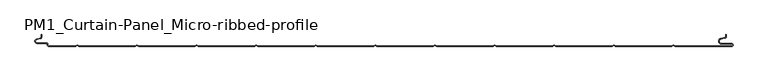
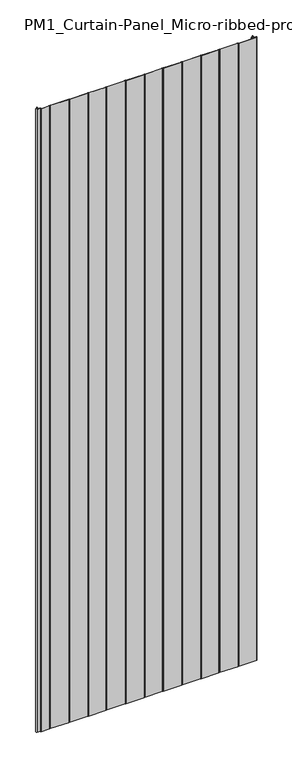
"""IFC4 building model written with IfcOpenShell, lengths in millimetres: plate geometry, PM1_Curtain-Panel_Micro-ribbed-profile : ACH_PM1_Acoustic-Sectioning-Panel_200M."""

from ifc_helpers import new_model, si_unit, frame, origin, place, context, project, spatial, polyline, circle_curve, source, transform, mapped, element, save
from ifc_brep_helpers import plane_surface, cylinder_surface, revolved_surface, advanced_brep


def pm1_curtain_panel_micro_ribbed_profile_6def71c2(model_context):
    return source(origin(), model_context, "Body", "AdvancedBrep", [
        advanced_brep(
        [(-575.0, -184.121443, 3500.0), (-576.5500978, -186.0701831, 3500.0), (-582.7098239, -187.492268, 3500.0), (-581.9, -194.6, 3500.0), (-566.4, -194.6, 3500.0), (-564.4, -196.6, 3500.0), (-564.4, -198.0, 3500.0), (-562.4, -200.0, 3500.0), (-517.0999995, -200.0, 3500.0), (-514.4, -198.4411545, 3500.0), (-511.7000005, -200.0, 3500.0), (-417.0999995, -200.0, 3500.0), (-414.4, -198.4411545, 3500.0), (-411.7000005, -200.0, 3500.0), (-317.0999995, -200.0, 3500.0), (-314.4, -198.4411545, 3500.0), (-311.7000005, -200.0, 3500.0), (-217.0999995, -200.0, 3500.0), (-214.4, -198.4411545, 3500.0), (-211.7000005, -200.0, 3500.0), (-117.0999995, -200.0, 3500.0), (-114.4, -198.4411545, 3500.0), (-111.7000005, -200.0, 3500.0), (-17.0999995, -200.0, 3500.0), (-14.4, -198.4411545, 3500.0), (-11.7000005, -200.0, 3500.0), (82.9000005, -200.0, 3500.0), (85.6, -198.4411545, 3500.0), (88.2999995, -200.0, 3500.0), (182.9000005, -200.0, 3500.0), (185.6, -198.4411545, 3500.0), (188.2999995, -200.0, 3500.0), (282.9000005, -200.0, 3500.0), (285.6, -198.4411545, 3500.0), (288.2999995, -200.0, 3500.0), (382.9000005, -200.0, 3500.0), (385.6, -198.4411545, 3500.0), (388.2999995, -200.0, 3500.0), (482.9000005, -200.0, 3500.0), (485.6, -198.4411545, 3500.0), (488.2999995, -200.0, 3500.0), (583.1, -200.0, 3500.0), (585.6, -197.5, 3500.0), (583.1, -195.0, 3500.0), (566.1, -195.0, 3500.0), (565.405407, -187.060769, 3500.0), (571.8514855, -185.9241509, 3500.0), (574.0, -183.3636508, 3500.0), (574.0, -180.0, 3500.0), (573.2, -180.0, 3500.0), (573.2, -183.3636508, 3500.0), (571.7125669, -185.1363047, 3500.0), (565.2664884, -186.2729228, 3500.0), (566.1, -195.8, 3500.0), (583.1, -195.8, 3500.0), (583.1, -199.2, 3500.0), (488.5143588, -199.2, 3500.0), (485.6, -197.517394, 3500.0), (482.6856412, -199.2, 3500.0), (388.5143588, -199.2, 3500.0), (385.6, -197.517394, 3500.0), (382.6856412, -199.2, 3500.0), (288.5143588, -199.2, 3500.0), (285.6, -197.517394, 3500.0), (282.6856412, -199.2, 3500.0), (188.5143588, -199.2, 3500.0), (185.6, -197.517394, 3500.0), (182.6856412, -199.2, 3500.0), (88.5143588, -199.2, 3500.0), (85.6, -197.517394, 3500.0), (82.6856412, -199.2, 3500.0), (-11.4856412, -199.2, 3500.0), (-14.4, -197.517394, 3500.0), (-17.3143588, -199.2, 3500.0), (-111.4856412, -199.2, 3500.0), (-114.4, -197.517394, 3500.0), (-117.3143588, -199.2, 3500.0), (-211.4856412, -199.2, 3500.0), (-214.4, -197.517394, 3500.0), (-217.3143588, -199.2, 3500.0), (-311.4856412, -199.2, 3500.0), (-314.4, -197.517394, 3500.0), (-317.3143588, -199.2, 3500.0), (-411.4856412, -199.2, 3500.0), (-414.4, -197.517394, 3500.0), (-417.3143588, -199.2, 3500.0), (-511.4856412, -199.2, 3500.0), (-514.4, -197.517394, 3500.0), (-517.3143588, -199.2, 3500.0), (-562.4, -199.2, 3500.0), (-563.6, -198.0, 3500.0), (-563.6, -196.6, 3500.0), (-566.4, -193.8, 3500.0), (-581.9, -193.8, 3500.0), (-582.529863, -188.2717638, 3500.0), (-576.370137, -186.849679, 3500.0), (-574.2, -184.121443, 3500.0), (-574.2, -180.0, 3500.0), (-575.0, -180.0, 3500.0), (-575.0, -184.121443, 0.0), (-575.0, -180.0, 0.0), (-574.2, -180.0, 0.0), (-574.2, -184.121443, 0.0), (-576.370137, -186.8496792, 0.0), (-582.529863, -188.271764, 0.0), (-581.9, -193.8, 0.0), (-566.4, -193.8, 0.0), (-563.6, -196.6, 0.0), (-563.6, -198.0, 0.0), (-562.4, -199.2, 0.0), (-517.3143588, -199.2, 0.0), (-514.4, -197.517394, 0.0), (-511.4856412, -199.2, 0.0), (-417.3143588, -199.2, 0.0), (-414.4, -197.517394, 0.0), (-411.4856412, -199.2, 0.0), (-317.3143588, -199.2, 0.0), (-314.4, -197.517394, 0.0), (-311.4856412, -199.2, 0.0), (-217.3143588, -199.2, 0.0), (-214.4, -197.517394, 0.0), (-211.4856412, -199.2, 0.0), (-117.3143588, -199.2, 0.0), (-114.4, -197.517394, 0.0), (-111.4856412, -199.2, 0.0), (-17.3143588, -199.2, 0.0), (-14.4, -197.517394, 0.0), (-11.4856412, -199.2, 0.0), (82.6856412, -199.2, 0.0), (85.6, -197.517394, 0.0), (88.5143588, -199.2, 0.0), (182.6856412, -199.2, 0.0), (185.6, -197.517394, 0.0), (188.5143588, -199.2, 0.0), (282.6856412, -199.2, 0.0), (285.6, -197.517394, 0.0), (288.5143588, -199.2, 0.0), (382.6856412, -199.2, 0.0), (385.6, -197.517394, 0.0), (388.5143588, -199.2, 0.0), (482.6856412, -199.2, 0.0), (485.6, -197.517394, 0.0), (488.5143588, -199.2, 0.0), (583.1, -199.2, 0.0), (583.1, -195.8, 0.0), (566.1, -195.8, 0.0), (565.2664884, -186.2729229, 0.0), (571.7125669, -185.1363047, 0.0), (573.2, -183.3636508, 0.0), (573.2, -180.0, 0.0), (574.0, -180.0, 0.0), (574.0, -183.3636508, 0.0), (571.8514855, -185.9241509, 0.0), (565.405407, -187.060769, 0.0), (566.1, -195.0, 0.0), (583.1, -195.0, 0.0), (585.6, -197.5, 0.0), (583.1, -200.0, 0.0), (488.2999995, -200.0, 0.0), (485.6, -198.4411545, 0.0), (482.9000005, -200.0, 0.0), (388.2999995, -200.0, 0.0), (385.6, -198.4411545, 0.0), (382.9000005, -200.0, 0.0), (288.2999995, -200.0, 0.0), (285.6, -198.4411545, 0.0), (282.9000005, -200.0, 0.0), (188.2999995, -200.0, 0.0), (185.6, -198.4411545, 0.0), (182.9000005, -200.0, 0.0), (88.2999995, -200.0, 0.0), (85.6, -198.4411545, 0.0), (82.9000005, -200.0, 0.0), (-11.7000005, -200.0, 0.0), (-14.4, -198.4411545, 0.0), (-17.0999995, -200.0, 0.0), (-111.7000005, -200.0, 0.0), (-114.4, -198.4411545, 0.0), (-117.0999995, -200.0, 0.0), (-211.7000005, -200.0, 0.0), (-214.4, -198.4411545, 0.0), (-217.0999995, -200.0, 0.0), (-311.7000005, -200.0, 0.0), (-314.4, -198.4411545, 0.0), (-317.0999995, -200.0, 0.0), (-411.7000005, -200.0, 0.0), (-414.4, -198.4411545, 0.0), (-417.0999995, -200.0, 0.0), (-511.7000005, -200.0, 0.0), (-514.4, -198.4411545, 0.0), (-517.0999995, -200.0, 0.0), (-562.4, -200.0, 0.0), (-564.4, -198.0, 0.0), (-564.4, -196.6, 0.0), (-566.4, -194.6, 0.0), (-581.9, -194.6, 0.0), (-582.7098239, -187.4922678, 0.0), (-576.5500979, -186.070183, 0.0)],
        [
            (0, 1, circle_curve(frame((-577.0, -184.121443, 3500.0), z_axis=(0.0, 0.0, -1.0), x_axis=(1.0, 0.0, 0.0)), 2.0)),
            (1, 2),
            (2, 3, circle_curve(frame((-581.9, -191.0, 3500.0), z_axis=(0.0, 0.0, 1.0), x_axis=(1.0, 0.0, 0.0)), 3.6)),
            (3, 4),
            (4, 5, circle_curve(frame((-566.4, -196.6, 3500.0), z_axis=(0.0, 0.0, -1.0), x_axis=(1.0, 0.0, 0.0)), 2.0)),
            (5, 6),
            (6, 7, circle_curve(frame((-562.4, -198.0, 3500.0), z_axis=(0.0, 0.0, 1.0), x_axis=(1.0, 0.0, 0.0)), 2.0)),
            (7, 8),
            (8, 9),
            (9, 10),
            (10, 11),
            (11, 12),
            (12, 13),
            (13, 14),
            (14, 15),
            (15, 16),
            (16, 17),
            (17, 18),
            (18, 19),
            (19, 20),
            (20, 21),
            (21, 22),
            (22, 23),
            (23, 24),
            (24, 25),
            (25, 26),
            (26, 27),
            (27, 28),
            (28, 29),
            (29, 30),
            (30, 31),
            (31, 32),
            (32, 33),
            (33, 34),
            (34, 35),
            (35, 36),
            (36, 37),
            (37, 38),
            (38, 39),
            (39, 40),
            (40, 41),
            (41, 42, circle_curve(frame((583.1, -197.5, 3500.0), z_axis=(0.0, 0.0, 1.0), x_axis=(1.0, 0.0, 0.0)), 2.5)),
            (42, 43, circle_curve(frame((583.1, -197.5, 3500.0), z_axis=(0.0, 0.0, 1.0), x_axis=(1.0, 0.0, 0.0)), 2.5)),
            (43, 44),
            (44, 45, circle_curve(frame((566.1, -191.0, 3500.0), z_axis=(0.0, 0.0, -1.0), x_axis=(1.0, 0.0, 0.0)), 4.0)),
            (45, 46),
            (46, 47, circle_curve(frame((571.4, -183.3636508, 3500.0), z_axis=(0.0, 0.0, 1.0), x_axis=(1.0, 0.0, 0.0)), 2.6)),
            (47, 48),
            (48, 49),
            (49, 50),
            (50, 51, circle_curve(frame((571.4, -183.3636508, 3500.0), z_axis=(0.0, 0.0, -1.0), x_axis=(1.0, 0.0, 0.0)), 1.8)),
            (51, 52),
            (52, 53, circle_curve(frame((566.1, -191.0, 3500.0), z_axis=(0.0, 0.0, 1.0), x_axis=(1.0, 0.0, 0.0)), 4.8)),
            (53, 54),
            (54, 55, circle_curve(frame((583.1, -197.5, 3500.0), z_axis=(0.0, 0.0, -1.0), x_axis=(1.0, 0.0, 0.0)), 1.7)),
            (55, 56),
            (56, 57),
            (57, 58),
            (58, 59),
            (59, 60),
            (60, 61),
            (61, 62),
            (62, 63),
            (63, 64),
            (64, 65),
            (65, 66),
            (66, 67),
            (67, 68),
            (68, 69),
            (69, 70),
            (70, 71),
            (71, 72),
            (72, 73),
            (73, 74),
            (74, 75),
            (75, 76),
            (76, 77),
            (77, 78),
            (78, 79),
            (79, 80),
            (80, 81),
            (81, 82),
            (82, 83),
            (83, 84),
            (84, 85),
            (85, 86),
            (86, 87),
            (87, 88),
            (88, 89),
            (89, 90, circle_curve(frame((-562.4, -198.0, 3500.0), z_axis=(0.0, 0.0, -1.0), x_axis=(1.0, 0.0, 0.0)), 1.2)),
            (90, 91),
            (91, 92, circle_curve(frame((-566.4, -196.6, 3500.0), z_axis=(0.0, 0.0, 1.0), x_axis=(1.0, 0.0, 0.0)), 2.8)),
            (92, 93),
            (93, 94, circle_curve(frame((-581.9, -191.0, 3500.0), z_axis=(0.0, 0.0, -1.0), x_axis=(1.0, 0.0, 0.0)), 2.8)),
            (94, 95),
            (95, 96, circle_curve(frame((-577.0, -184.121443, 3500.0), z_axis=(0.0, 0.0, 1.0), x_axis=(1.0, 0.0, 0.0)), 2.8)),
            (96, 97),
            (97, 98),
            (98, 0),
            (99, 100),
            (100, 101),
            (101, 102),
            (102, 103, circle_curve(frame((-577.0, -184.121443, 0.0), z_axis=(0.0, 0.0, -1.0), x_axis=(1.0, 0.0, 0.0)), 2.8)),
            (103, 104),
            (104, 105, circle_curve(frame((-581.9, -191.0, 0.0), z_axis=(0.0, 0.0, 1.0), x_axis=(1.0, 0.0, 0.0)), 2.8)),
            (105, 106),
            (106, 107, circle_curve(frame((-566.4, -196.6, 0.0), z_axis=(0.0, 0.0, -1.0), x_axis=(1.0, 0.0, 0.0)), 2.8)),
            (107, 108),
            (108, 109, circle_curve(frame((-562.4, -198.0, 0.0), z_axis=(0.0, 0.0, 1.0), x_axis=(1.0, 0.0, 0.0)), 1.2)),
            (109, 110),
            (110, 111),
            (111, 112),
            (112, 113),
            (113, 114),
            (114, 115),
            (115, 116),
            (116, 117),
            (117, 118),
            (118, 119),
            (119, 120),
            (120, 121),
            (121, 122),
            (122, 123),
            (123, 124),
            (124, 125),
            (125, 126),
            (126, 127),
            (127, 128),
            (128, 129),
            (129, 130),
            (130, 131),
            (131, 132),
            (132, 133),
            (133, 134),
            (134, 135),
            (135, 136),
            (136, 137),
            (137, 138),
            (138, 139),
            (139, 140),
            (140, 141),
            (141, 142),
            (142, 143),
            (143, 144, circle_curve(frame((583.1, -197.5, 0.0), z_axis=(0.0, 0.0, 1.0), x_axis=(1.0, 0.0, 0.0)), 1.7)),
            (144, 145),
            (145, 146, circle_curve(frame((566.1, -191.0, 0.0), z_axis=(0.0, 0.0, -1.0), x_axis=(1.0, 0.0, 0.0)), 4.8)),
            (146, 147),
            (147, 148, circle_curve(frame((571.4, -183.3636508, 0.0), z_axis=(0.0, 0.0, 1.0), x_axis=(1.0, 0.0, 0.0)), 1.8)),
            (148, 149),
            (149, 150),
            (150, 151),
            (151, 152, circle_curve(frame((571.4, -183.3636508, 0.0), z_axis=(0.0, 0.0, -1.0), x_axis=(1.0, 0.0, 0.0)), 2.6)),
            (152, 153),
            (153, 154, circle_curve(frame((566.1, -191.0, 0.0), z_axis=(0.0, 0.0, 1.0), x_axis=(1.0, 0.0, 0.0)), 4.0)),
            (154, 155),
            (155, 156, circle_curve(frame((583.1, -197.5, 0.0), z_axis=(0.0, 0.0, -1.0), x_axis=(1.0, 0.0, 0.0)), 2.5)),
            (156, 157, circle_curve(frame((583.1, -197.5, 0.0), z_axis=(0.0, 0.0, -1.0), x_axis=(1.0, 0.0, 0.0)), 2.5)),
            (157, 158),
            (158, 159),
            (159, 160),
            (160, 161),
            (161, 162),
            (162, 163),
            (163, 164),
            (164, 165),
            (165, 166),
            (166, 167),
            (167, 168),
            (168, 169),
            (169, 170),
            (170, 171),
            (171, 172),
            (172, 173),
            (173, 174),
            (174, 175),
            (175, 176),
            (176, 177),
            (177, 178),
            (178, 179),
            (179, 180),
            (180, 181),
            (181, 182),
            (182, 183),
            (183, 184),
            (184, 185),
            (185, 186),
            (186, 187),
            (187, 188),
            (188, 189),
            (189, 190),
            (190, 191),
            (191, 192, circle_curve(frame((-562.4, -198.0, 0.0), z_axis=(0.0, 0.0, -1.0), x_axis=(1.0, 0.0, 0.0)), 2.0)),
            (192, 193),
            (193, 194, circle_curve(frame((-566.4, -196.6, 0.0), z_axis=(0.0, 0.0, 1.0), x_axis=(1.0, 0.0, 0.0)), 2.0)),
            (194, 195),
            (195, 196, circle_curve(frame((-581.9, -191.0, 0.0), z_axis=(0.0, 0.0, -1.0), x_axis=(1.0, 0.0, 0.0)), 3.6)),
            (196, 197),
            (197, 99, circle_curve(frame((-577.0, -184.121443, 0.0), z_axis=(0.0, 0.0, 1.0), x_axis=(1.0, 0.0, 0.0)), 2.0)),
            (0, 99),
            (197, 1),
            (196, 2),
            (195, 3),
            (194, 4),
            (193, 5),
            (192, 6),
            (191, 7),
            (190, 8),
            (189, 9),
            (188, 10),
            (187, 11),
            (186, 12),
            (185, 13),
            (184, 14),
            (183, 15),
            (182, 16),
            (181, 17),
            (180, 18),
            (179, 19),
            (178, 20),
            (177, 21),
            (176, 22),
            (175, 23),
            (174, 24),
            (173, 25),
            (172, 26),
            (171, 27),
            (170, 28),
            (169, 29),
            (168, 30),
            (167, 31),
            (166, 32),
            (165, 33),
            (164, 34),
            (163, 35),
            (162, 36),
            (161, 37),
            (160, 38),
            (159, 39),
            (158, 40),
            (157, 41),
            (155, 43),
            (154, 44),
            (153, 45),
            (152, 46),
            (151, 47),
            (150, 48),
            (149, 49),
            (148, 50),
            (147, 51),
            (146, 52),
            (145, 53),
            (144, 54),
            (143, 55),
            (142, 56),
            (141, 57),
            (140, 58),
            (139, 59),
            (138, 60),
            (137, 61),
            (136, 62),
            (135, 63),
            (134, 64),
            (133, 65),
            (132, 66),
            (131, 67),
            (130, 68),
            (129, 69),
            (128, 70),
            (127, 71),
            (126, 72),
            (125, 73),
            (124, 74),
            (123, 75),
            (122, 76),
            (121, 77),
            (120, 78),
            (119, 79),
            (118, 80),
            (117, 81),
            (116, 82),
            (115, 83),
            (114, 84),
            (113, 85),
            (112, 86),
            (111, 87),
            (110, 88),
            (109, 89),
            (108, 90),
            (107, 91),
            (106, 92),
            (105, 93),
            (104, 94),
            (103, 95),
            (102, 96),
            (101, 97),
            (100, 98),
        ],
        [
            plane_surface(frame((-575.0, -200.0, 3500.0), z_axis=(0.0, 0.0, 1.0), x_axis=(0.0, 1.0, 0.0))),
            plane_surface(frame((-575.0, -200.0, 0.0), z_axis=(0.0, 0.0, -1.0), x_axis=(0.0, 1.0, 0.0))),
            revolved_surface(polyline([(-575.0, -184.121443, 0.0), (-575.0, -184.121443, 3500.0)]), (-577.0, -184.121443, 3500.0), (0.0, 0.0, -1.0)),
            plane_surface(frame((-576.5500979, -186.070183, 3500.0), z_axis=(-0.22495108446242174, 0.9743700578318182, 0.0), x_axis=(0.0, 0.0, -1.0))),
            cylinder_surface(frame((-581.9, -191.0, 3500.0), z_axis=(0.0, 0.0, 1.0), x_axis=(1.0, 0.0, 0.0)), 3.6),
            plane_surface(frame((-581.9, -194.6, 3500.0), z_axis=(0.0, -1.0, 0.0), x_axis=(0.0, 0.0, -1.0))),
            revolved_surface(polyline([(-564.4, -196.6, 0.0), (-564.4, -196.6, 3500.0)]), (-566.4, -196.6, 3500.0), (0.0, 0.0, -1.0)),
            plane_surface(frame((-564.4, -196.6, 3500.0), z_axis=(-1.0, 0.0, 0.0), x_axis=(0.0, 0.0, -1.0))),
            cylinder_surface(frame((-562.4, -198.0, 3500.0), z_axis=(0.0, 0.0, 1.0), x_axis=(1.0, 0.0, 0.0)), 2.0),
            plane_surface(frame((-562.4, -200.0, 3500.0), z_axis=(0.0, -1.0, 0.0), x_axis=(0.0, 0.0, -1.0))),
            plane_surface(frame((-517.0999995, -200.0, 3500.0), z_axis=(0.5000000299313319, -0.8660253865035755, 0.0), x_axis=(0.0, 0.0, -1.0))),
            plane_surface(frame((-514.4, -198.4411545, 3500.0), z_axis=(-0.5000000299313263, -0.8660253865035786, 0.0), x_axis=(0.0, 0.0, -1.0))),
            plane_surface(frame((-511.7000005, -200.0, 3500.0), z_axis=(0.0, -1.0, 0.0), x_axis=(0.0, 0.0, -1.0))),
            plane_surface(frame((-417.0999995, -200.0, 3500.0), z_axis=(0.5000000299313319, -0.8660253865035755, 0.0), x_axis=(0.0, 0.0, -1.0))),
            plane_surface(frame((-414.4, -198.4411545, 3500.0), z_axis=(-0.5000000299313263, -0.8660253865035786, 0.0), x_axis=(0.0, 0.0, -1.0))),
            plane_surface(frame((-411.7000005, -200.0, 3500.0), z_axis=(0.0, -1.0, 0.0), x_axis=(0.0, 0.0, -1.0))),
            plane_surface(frame((-317.0999995, -200.0, 3500.0), z_axis=(0.5000000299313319, -0.8660253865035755, 0.0), x_axis=(0.0, 0.0, -1.0))),
            plane_surface(frame((-314.4, -198.4411545, 3500.0), z_axis=(-0.5000000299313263, -0.8660253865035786, 0.0), x_axis=(0.0, 0.0, -1.0))),
            plane_surface(frame((-311.7000005, -200.0, 3500.0), z_axis=(0.0, -1.0, 0.0), x_axis=(0.0, 0.0, -1.0))),
            plane_surface(frame((-217.0999995, -200.0, 3500.0), z_axis=(0.5000000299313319, -0.8660253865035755, 0.0), x_axis=(0.0, 0.0, -1.0))),
            plane_surface(frame((-214.4, -198.4411545, 3500.0), z_axis=(-0.5000000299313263, -0.8660253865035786, 0.0), x_axis=(0.0, 0.0, -1.0))),
            plane_surface(frame((-211.7000005, -200.0, 3500.0), z_axis=(0.0, -1.0, 0.0), x_axis=(0.0, 0.0, -1.0))),
            plane_surface(frame((-117.0999995, -200.0, 3500.0), z_axis=(0.5000000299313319, -0.8660253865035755, 0.0), x_axis=(0.0, 0.0, -1.0))),
            plane_surface(frame((-114.4, -198.4411545, 3500.0), z_axis=(-0.5000000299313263, -0.8660253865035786, 0.0), x_axis=(0.0, 0.0, -1.0))),
            plane_surface(frame((-111.7000005, -200.0, 3500.0), z_axis=(0.0, -1.0, 0.0), x_axis=(0.0, 0.0, -1.0))),
            plane_surface(frame((-17.0999995, -200.0, 3500.0), z_axis=(0.5000000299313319, -0.8660253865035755, 0.0), x_axis=(0.0, 0.0, -1.0))),
            plane_surface(frame((-14.4, -198.4411545, 3500.0), z_axis=(-0.5000000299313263, -0.8660253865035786, 0.0), x_axis=(0.0, 0.0, -1.0))),
            plane_surface(frame((-11.7000005, -200.0, 3500.0), z_axis=(0.0, -1.0, 0.0), x_axis=(0.0, 0.0, -1.0))),
            plane_surface(frame((82.9000005, -200.0, 3500.0), z_axis=(0.5000000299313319, -0.8660253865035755, 0.0), x_axis=(0.0, 0.0, -1.0))),
            plane_surface(frame((85.6, -198.4411545, 3500.0), z_axis=(-0.5000000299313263, -0.8660253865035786, 0.0), x_axis=(0.0, 0.0, -1.0))),
            plane_surface(frame((88.2999995, -200.0, 3500.0), z_axis=(0.0, -1.0, 0.0), x_axis=(0.0, 0.0, -1.0))),
            plane_surface(frame((182.9000005, -200.0, 3500.0), z_axis=(0.5000000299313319, -0.8660253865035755, 0.0), x_axis=(0.0, 0.0, -1.0))),
            plane_surface(frame((185.6, -198.4411545, 3500.0), z_axis=(-0.5000000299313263, -0.8660253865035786, 0.0), x_axis=(0.0, 0.0, -1.0))),
            plane_surface(frame((188.2999995, -200.0, 3500.0), z_axis=(0.0, -1.0, 0.0), x_axis=(0.0, 0.0, -1.0))),
            plane_surface(frame((282.9000005, -200.0, 3500.0), z_axis=(0.5000000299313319, -0.8660253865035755, 0.0), x_axis=(0.0, 0.0, -1.0))),
            plane_surface(frame((285.6, -198.4411545, 3500.0), z_axis=(-0.5000000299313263, -0.8660253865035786, 0.0), x_axis=(0.0, 0.0, -1.0))),
            plane_surface(frame((288.2999995, -200.0, 3500.0), z_axis=(0.0, -1.0, 0.0), x_axis=(0.0, 0.0, -1.0))),
            plane_surface(frame((382.9000005, -200.0, 3500.0), z_axis=(0.5000000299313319, -0.8660253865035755, 0.0), x_axis=(0.0, 0.0, -1.0))),
            plane_surface(frame((385.6, -198.4411545, 3500.0), z_axis=(-0.5000000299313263, -0.8660253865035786, 0.0), x_axis=(0.0, 0.0, -1.0))),
            plane_surface(frame((388.2999995, -200.0, 3500.0), z_axis=(0.0, -1.0, 0.0), x_axis=(0.0, 0.0, -1.0))),
            plane_surface(frame((482.9000005, -200.0, 3500.0), z_axis=(0.5000000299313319, -0.8660253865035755, 0.0), x_axis=(0.0, 0.0, -1.0))),
            plane_surface(frame((485.6, -198.4411545, 3500.0), z_axis=(-0.5000000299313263, -0.8660253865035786, 0.0), x_axis=(0.0, 0.0, -1.0))),
            plane_surface(frame((535.6, -200.0, 3500.0), z_axis=(0.0, -1.0, 0.0), x_axis=(0.0, 0.0, -1.0))),
            cylinder_surface(frame((583.1, -197.5, 3500.0), z_axis=(0.0, 0.0, 1.0), x_axis=(1.0, 0.0, 0.0)), 2.5),
            plane_surface(frame((583.1, -195.0, 3500.0), z_axis=(0.0, 1.0, 0.0), x_axis=(0.0, 0.0, -1.0))),
            revolved_surface(polyline([(570.1, -191.0, 0.0), (570.1, -191.0, 3500.0)]), (566.1, -191.0, 3500.0), (0.0, 0.0, -1.0)),
            plane_surface(frame((565.405407, -187.060769, 3500.0), z_axis=(0.17364825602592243, -0.9848077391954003, 0.0), x_axis=(0.0, 0.0, -1.0))),
            cylinder_surface(frame((571.4, -183.3636508, 3500.0), z_axis=(0.0, 0.0, 1.0), x_axis=(1.0, 0.0, 0.0)), 2.6),
            plane_surface(frame((574.0, -183.3636508, 3500.0), z_axis=(1.0, 0.0, 0.0), x_axis=(0.0, 0.0, -1.0))),
            plane_surface(frame((574.0, -180.0, 3500.0), z_axis=(0.0, 1.0, 0.0), x_axis=(0.0, 0.0, -1.0))),
            plane_surface(frame((573.2, -180.0, 3500.0), z_axis=(-1.0, 0.0, 0.0), x_axis=(0.0, 0.0, -1.0))),
            revolved_surface(polyline([(573.1999999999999, -183.3636508, 0.0), (573.1999999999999, -183.3636508, 3500.0)]), (571.4, -183.3636508, 3500.0), (0.0, 0.0, -1.0)),
            plane_surface(frame((571.7125669, -185.1363047, 3500.0), z_axis=(-0.17364825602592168, 0.9848077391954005, 0.0), x_axis=(0.0, 0.0, -1.0))),
            cylinder_surface(frame((566.1, -191.0, 3500.0), z_axis=(0.0, 0.0, 1.0), x_axis=(1.0, 0.0, 0.0)), 4.8),
            plane_surface(frame((566.1, -195.8, 3500.0), z_axis=(0.0, -1.0, 0.0), x_axis=(0.0, 0.0, -1.0))),
            revolved_surface(polyline([(584.8000000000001, -197.5, 0.0), (584.8000000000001, -197.5, 3500.0)]), (583.1, -197.5, 3500.0), (0.0, 0.0, -1.0)),
            plane_surface(frame((535.6, -199.2, 3500.0), z_axis=(0.0, 1.0, 0.0), x_axis=(0.0, 0.0, -1.0))),
            plane_surface(frame((488.5143588, -199.2, 3500.0), z_axis=(0.5000000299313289, 0.8660253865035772, 0.0), x_axis=(0.0, 0.0, -1.0))),
            plane_surface(frame((485.6, -197.517394, 3500.0), z_axis=(-0.5000000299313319, 0.8660253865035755, 0.0), x_axis=(0.0, 0.0, -1.0))),
            plane_surface(frame((482.6856412, -199.2, 3500.0), z_axis=(0.0, 1.0, 0.0), x_axis=(0.0, 0.0, -1.0))),
            plane_surface(frame((388.5143588, -199.2, 3500.0), z_axis=(0.5000000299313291, 0.8660253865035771, 0.0), x_axis=(0.0, 0.0, -1.0))),
            plane_surface(frame((385.6, -197.517394, 3500.0), z_axis=(-0.500000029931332, 0.8660253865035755, 0.0), x_axis=(0.0, 0.0, -1.0))),
            plane_surface(frame((382.6856412, -199.2, 3500.0), z_axis=(0.0, 1.0, 0.0), x_axis=(0.0, 0.0, -1.0))),
            plane_surface(frame((288.5143588, -199.2, 3500.0), z_axis=(0.5000000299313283, 0.8660253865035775, 0.0), x_axis=(0.0, 0.0, -1.0))),
            plane_surface(frame((285.6, -197.517394, 3500.0), z_axis=(-0.5000000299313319, 0.8660253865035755, 0.0), x_axis=(0.0, 0.0, -1.0))),
            plane_surface(frame((282.6856412, -199.2, 3500.0), z_axis=(0.0, 1.0, 0.0), x_axis=(0.0, 0.0, -1.0))),
            plane_surface(frame((188.5143588, -199.2, 3500.0), z_axis=(0.5000000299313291, 0.8660253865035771, 0.0), x_axis=(0.0, 0.0, -1.0))),
            plane_surface(frame((185.6, -197.517394, 3500.0), z_axis=(-0.5000000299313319, 0.8660253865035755, 0.0), x_axis=(0.0, 0.0, -1.0))),
            plane_surface(frame((182.6856412, -199.2, 3500.0), z_axis=(0.0, 1.0, 0.0), x_axis=(0.0, 0.0, -1.0))),
            plane_surface(frame((88.5143588, -199.2, 3500.0), z_axis=(0.5000000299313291, 0.8660253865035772, 0.0), x_axis=(0.0, 0.0, -1.0))),
            plane_surface(frame((85.6, -197.517394, 3500.0), z_axis=(-0.5000000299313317, 0.8660253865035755, 0.0), x_axis=(0.0, 0.0, -1.0))),
            plane_surface(frame((82.6856412, -199.2, 3500.0), z_axis=(0.0, 1.0, 0.0), x_axis=(0.0, 0.0, -1.0))),
            plane_surface(frame((-11.4856412, -199.2, 3500.0), z_axis=(0.500000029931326, 0.8660253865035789, 0.0), x_axis=(0.0, 0.0, -1.0))),
            plane_surface(frame((-14.4, -197.517394, 3500.0), z_axis=(-0.500000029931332, 0.8660253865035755, 0.0), x_axis=(0.0, 0.0, -1.0))),
            plane_surface(frame((-17.3143588, -199.2, 3500.0), z_axis=(0.0, 1.0, 0.0), x_axis=(0.0, 0.0, -1.0))),
            plane_surface(frame((-111.4856412, -199.2, 3500.0), z_axis=(0.5000000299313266, 0.8660253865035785, 0.0), x_axis=(0.0, 0.0, -1.0))),
            plane_surface(frame((-114.4, -197.517394, 3500.0), z_axis=(-0.5000000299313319, 0.8660253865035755, 0.0), x_axis=(0.0, 0.0, -1.0))),
            plane_surface(frame((-117.3143588, -199.2, 3500.0), z_axis=(0.0, 1.0, 0.0), x_axis=(0.0, 0.0, -1.0))),
            plane_surface(frame((-211.4856412, -199.2, 3500.0), z_axis=(0.5000000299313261, 0.8660253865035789, 0.0), x_axis=(0.0, 0.0, -1.0))),
            plane_surface(frame((-214.4, -197.517394, 3500.0), z_axis=(-0.500000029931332, 0.8660253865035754, 0.0), x_axis=(0.0, 0.0, -1.0))),
            plane_surface(frame((-217.3143588, -199.2, 3500.0), z_axis=(0.0, 1.0, 0.0), x_axis=(0.0, 0.0, -1.0))),
            plane_surface(frame((-311.4856412, -199.2, 3500.0), z_axis=(0.5000000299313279, 0.8660253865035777, 0.0), x_axis=(0.0, 0.0, -1.0))),
            plane_surface(frame((-314.4, -197.517394, 3500.0), z_axis=(-0.5000000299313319, 0.8660253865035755, 0.0), x_axis=(0.0, 0.0, -1.0))),
            plane_surface(frame((-317.3143588, -199.2, 3500.0), z_axis=(0.0, 1.0, 0.0), x_axis=(0.0, 0.0, -1.0))),
            plane_surface(frame((-411.4856412, -199.2, 3500.0), z_axis=(0.5000000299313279, 0.8660253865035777, 0.0), x_axis=(0.0, 0.0, -1.0))),
            plane_surface(frame((-414.4, -197.517394, 3500.0), z_axis=(-0.5000000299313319, 0.8660253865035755, 0.0), x_axis=(0.0, 0.0, -1.0))),
            plane_surface(frame((-417.3143588, -199.2, 3500.0), z_axis=(0.0, 1.0, 0.0), x_axis=(0.0, 0.0, -1.0))),
            plane_surface(frame((-511.4856412, -199.2, 3500.0), z_axis=(0.5000000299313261, 0.8660253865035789, 0.0), x_axis=(0.0, 0.0, -1.0))),
            plane_surface(frame((-514.4, -197.517394, 3500.0), z_axis=(-0.5000000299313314, 0.8660253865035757, 0.0), x_axis=(0.0, 0.0, -1.0))),
            plane_surface(frame((-517.3143588, -199.2, 3500.0), z_axis=(0.0, 1.0, 0.0), x_axis=(0.0, 0.0, -1.0))),
            revolved_surface(polyline([(-561.1999999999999, -198.0, 0.0), (-561.1999999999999, -198.0, 3500.0)]), (-562.4, -198.0, 3500.0), (0.0, 0.0, -1.0)),
            plane_surface(frame((-563.6, -198.0, 3500.0), z_axis=(1.0, 0.0, 0.0), x_axis=(0.0, 0.0, -1.0))),
            cylinder_surface(frame((-566.4, -196.6, 3500.0), z_axis=(0.0, 0.0, 1.0), x_axis=(1.0, 0.0, 0.0)), 2.8),
            plane_surface(frame((-566.4, -193.8, 3500.0), z_axis=(0.0, 1.0, 0.0), x_axis=(0.0, 0.0, -1.0))),
            revolved_surface(polyline([(-579.1, -191.0, 0.0), (-579.1, -191.0, 3500.0)]), (-581.9, -191.0, 3500.0), (0.0, 0.0, -1.0)),
            plane_surface(frame((-582.529863, -188.271764, 3500.0), z_axis=(0.22495108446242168, -0.9743700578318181, 0.0), x_axis=(0.0, 0.0, -1.0))),
            cylinder_surface(frame((-577.0, -184.121443, 3500.0), z_axis=(0.0, 0.0, 1.0), x_axis=(1.0, 0.0, 0.0)), 2.8),
            plane_surface(frame((-574.2, -184.121443, 3500.0), z_axis=(1.0, 0.0, 0.0), x_axis=(0.0, 0.0, -1.0))),
            plane_surface(frame((-574.2, -180.0, 3500.0), z_axis=(0.0, 1.0, 0.0), x_axis=(0.0, 0.0, -1.0))),
            plane_surface(frame((-575.0, -180.0, 3500.0), z_axis=(-1.0, 0.0, 0.0), x_axis=(0.0, 0.0, -1.0))),
        ],
        [
            (0, [[1, 2, 3, 4, 5, 6, 7, 8, 9, 10, 11, 12, 13, 14, 15, 16, 17, 18, 19, 20, 21, 22, 23, 24, 25, 26, 27, 28, 29, 30, 31, 32, 33, 34, 35, 36, 37, 38, 39, 40, 41, 42, 43, 44, 45, 46, 47, 48, 49, 50, 51, 52, 53, 54, 55, 56, 57, 58, 59, 60, 61, 62, 63, 64, 65, 66, 67, 68, 69, 70, 71, 72, 73, 74, 75, 76, 77, 78, 79, 80, 81, 82, 83, 84, 85, 86, 87, 88, 89, 90, 91, 92, 93, 94, 95, 96, 97, 98, 99]]),
            (1, [[100, 101, 102, 103, 104, 105, 106, 107, 108, 109, 110, 111, 112, 113, 114, 115, 116, 117, 118, 119, 120, 121, 122, 123, 124, 125, 126, 127, 128, 129, 130, 131, 132, 133, 134, 135, 136, 137, 138, 139, 140, 141, 142, 143, 144, 145, 146, 147, 148, 149, 150, 151, 152, 153, 154, 155, 156, 157, 158, 159, 160, 161, 162, 163, 164, 165, 166, 167, 168, 169, 170, 171, 172, 173, 174, 175, 176, 177, 178, 179, 180, 181, 182, 183, 184, 185, 186, 187, 188, 189, 190, 191, 192, 193, 194, 195, 196, 197, 198]]),
            (2, [[-1, 199, -198, 200]]),
            (3, [[-2, -200, -197, 201]]),
            (4, [[-3, -201, -196, 202]]),
            (5, [[-4, -202, -195, 203]]),
            (6, [[-5, -203, -194, 204]]),
            (7, [[-6, -204, -193, 205]]),
            (8, [[-7, -205, -192, 206]]),
            (9, [[-8, -206, -191, 207]]),
            (10, [[-9, -207, -190, 208]]),
            (11, [[-10, -208, -189, 209]]),
            (12, [[-11, -209, -188, 210]]),
            (13, [[-12, -210, -187, 211]]),
            (14, [[-13, -211, -186, 212]]),
            (15, [[-14, -212, -185, 213]]),
            (16, [[-15, -213, -184, 214]]),
            (17, [[-16, -214, -183, 215]]),
            (18, [[-17, -215, -182, 216]]),
            (19, [[-18, -216, -181, 217]]),
            (20, [[-19, -217, -180, 218]]),
            (21, [[-20, -218, -179, 219]]),
            (22, [[-21, -219, -178, 220]]),
            (23, [[-22, -220, -177, 221]]),
            (24, [[-23, -221, -176, 222]]),
            (25, [[-24, -222, -175, 223]]),
            (26, [[-25, -223, -174, 224]]),
            (27, [[-26, -224, -173, 225]]),
            (28, [[-27, -225, -172, 226]]),
            (29, [[-28, -226, -171, 227]]),
            (30, [[-29, -227, -170, 228]]),
            (31, [[-30, -228, -169, 229]]),
            (32, [[-31, -229, -168, 230]]),
            (33, [[-32, -230, -167, 231]]),
            (34, [[-33, -231, -166, 232]]),
            (35, [[-34, -232, -165, 233]]),
            (36, [[-35, -233, -164, 234]]),
            (37, [[-36, -234, -163, 235]]),
            (38, [[-37, -235, -162, 236]]),
            (39, [[-38, -236, -161, 237]]),
            (40, [[-39, -237, -160, 238]]),
            (41, [[-40, -238, -159, 239]]),
            (42, [[-41, -239, -158, 240]]),
            (43, [[-240, -157, -156, 241, -43, -42]]),
            (44, [[-44, -241, -155, 242]]),
            (45, [[-45, -242, -154, 243]]),
            (46, [[-46, -243, -153, 244]]),
            (47, [[-47, -244, -152, 245]]),
            (48, [[-48, -245, -151, 246]]),
            (49, [[-49, -246, -150, 247]]),
            (50, [[-50, -247, -149, 248]]),
            (51, [[-51, -248, -148, 249]]),
            (52, [[-52, -249, -147, 250]]),
            (53, [[-53, -250, -146, 251]]),
            (54, [[-54, -251, -145, 252]]),
            (55, [[-55, -252, -144, 253]]),
            (56, [[-56, -253, -143, 254]]),
            (57, [[-57, -254, -142, 255]]),
            (58, [[-58, -255, -141, 256]]),
            (59, [[-59, -256, -140, 257]]),
            (60, [[-60, -257, -139, 258]]),
            (61, [[-61, -258, -138, 259]]),
            (62, [[-62, -259, -137, 260]]),
            (63, [[-63, -260, -136, 261]]),
            (64, [[-64, -261, -135, 262]]),
            (65, [[-65, -262, -134, 263]]),
            (66, [[-66, -263, -133, 264]]),
            (67, [[-67, -264, -132, 265]]),
            (68, [[-68, -265, -131, 266]]),
            (69, [[-69, -266, -130, 267]]),
            (70, [[-70, -267, -129, 268]]),
            (71, [[-71, -268, -128, 269]]),
            (72, [[-72, -269, -127, 270]]),
            (73, [[-73, -270, -126, 271]]),
            (74, [[-74, -271, -125, 272]]),
            (75, [[-75, -272, -124, 273]]),
            (76, [[-76, -273, -123, 274]]),
            (77, [[-77, -274, -122, 275]]),
            (78, [[-78, -275, -121, 276]]),
            (79, [[-79, -276, -120, 277]]),
            (80, [[-80, -277, -119, 278]]),
            (81, [[-81, -278, -118, 279]]),
            (82, [[-82, -279, -117, 280]]),
            (83, [[-83, -280, -116, 281]]),
            (84, [[-84, -281, -115, 282]]),
            (85, [[-85, -282, -114, 283]]),
            (86, [[-86, -283, -113, 284]]),
            (87, [[-87, -284, -112, 285]]),
            (88, [[-88, -285, -111, 286]]),
            (89, [[-89, -286, -110, 287]]),
            (90, [[-90, -287, -109, 288]]),
            (91, [[-91, -288, -108, 289]]),
            (92, [[-92, -289, -107, 290]]),
            (93, [[-93, -290, -106, 291]]),
            (94, [[-94, -291, -105, 292]]),
            (95, [[-95, -292, -104, 293]]),
            (96, [[-96, -293, -103, 294]]),
            (97, [[-97, -294, -102, 295]]),
            (98, [[-98, -295, -101, 296]]),
            (99, [[-99, -296, -100, -199]]),
        ],
    ),
    ])


if __name__ == "__main__":
    model = new_model("IFC4")
    model_context = context("Model", 3, world=origin())
    ifc_project = project(units=[si_unit("LENGTHUNIT", "METRE", prefix="MILLI")], contexts=[model_context])
    site = spatial("IfcSite", under=ifc_project)
    building = spatial("IfcBuilding", under=site)
    placement = place(None, origin())
    pm1_curtain_panel_micro_ribbed_profile_shape = pm1_curtain_panel_micro_ribbed_profile_6def71c2(model_context)
    element("IfcPlate", 1, ObjectType="PM1_Curtain-Panel_Micro-ribbed-profile : ACH_PM1_Acoustic-Sectioning-Panel_200M", at=placement, inside=building, context=model_context, shape_type="MappedRepresentation", body=[
        mapped(pm1_curtain_panel_micro_ribbed_profile_shape, transform((0.0, 0.0, 0.0), x_axis=(1.0, 0.0, 0.0), y_axis=(0.0, 1.0, 0.0), z_axis=(0.0, 0.0, 1.0))),
    ])
    save(model, "model.ifc")
